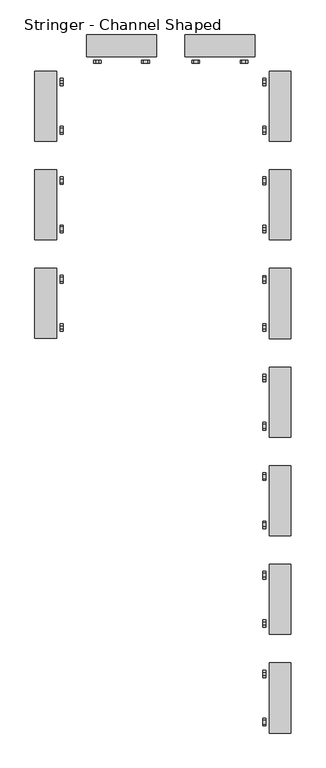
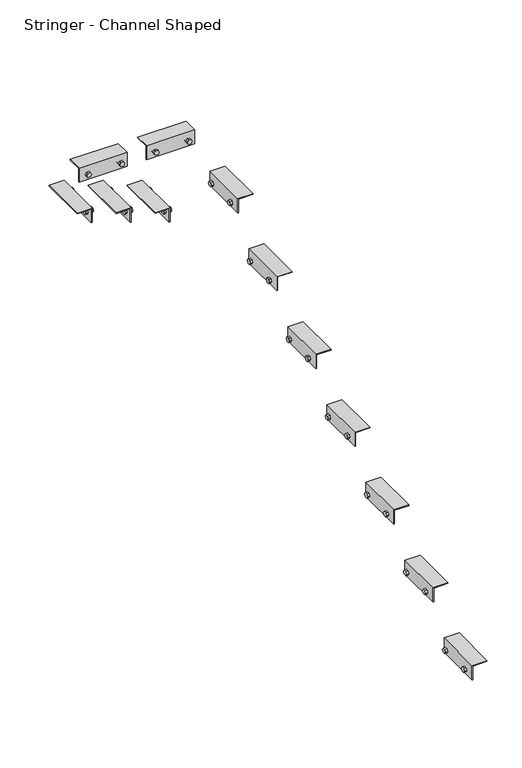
"""IFC4 building model written with IfcOpenShell, lengths in millimetres: railing geometry, Stringer - Channel Shaped."""

from ifc_helpers import new_model, si_unit, frame, origin, place, context, project, spatial, polyline, outline, extrude, source, transform, mapped, element, save


def stringer_channel_shaped_9c57bb19(model_context):
    return source(origin(), model_context, "Body", "SweptSolid", [
        extrude(outline(polyline([(1804.7607143, -35214.378433), (1868.2607143, -35214.378433), (1868.2607143, -35277.878433), (1865.0857143, -35277.878433), (1865.0857143, -35217.553433), (1804.7607143, -35217.553433), (1804.7607143, -35214.378433)])), frame((0.0, -1237.5853492, 0.0), z_axis=(0.0, 1.0, 0.0), x_axis=(0.0, 0.0, 1.0)), (0.0, 0.0, 1.0), 203.2),
        extrude(outline(polyline([(-1077.1338718, 1836.5107143), (-1071.6346105, 1846.0357143), (-1060.6360879, 1846.0357143), (-1055.1368266, 1836.5107143), (-1060.6360879, 1826.9857143), (-1071.6346105, 1826.9857143), (-1077.1338718, 1836.5107143)])), frame((-35204.853433, 0.0, 0.0), z_axis=(1.0, 0.0, 0.0), x_axis=(0.0, 1.0, 0.0)), (0.0, 0.0, 1.0), 9.525),
        extrude(outline(polyline([(-1216.8338718, 1836.5107143), (-1211.3346105, 1846.0357143), (-1200.3360879, 1846.0357143), (-1194.8368266, 1836.5107143), (-1200.3360879, 1826.9857143), (-1211.3346105, 1826.9857143), (-1216.8338718, 1836.5107143)])), frame((-35204.853433, 0.0, 0.0), z_axis=(1.0, 0.0, 0.0), x_axis=(0.0, 1.0, 0.0)), (0.0, 0.0, 1.0), 9.525),
        extrude(outline(polyline([(-1077.1338718, 1836.5107143), (-1071.6346105, 1846.0357143), (-1060.6360879, 1846.0357143), (-1055.1368266, 1836.5107143), (-1060.6360879, 1826.9857143), (-1071.6346105, 1826.9857143), (-1077.1338718, 1836.5107143)])), frame((-35227.078433, 0.0, 0.0), z_axis=(1.0, 0.0, 0.0), x_axis=(0.0, 1.0, 0.0)), (0.0, 0.0, 1.0), 9.525),
        extrude(outline(polyline([(-1216.8338718, 1836.5107143), (-1211.3346105, 1846.0357143), (-1200.3360879, 1846.0357143), (-1194.8368266, 1836.5107143), (-1200.3360879, 1826.9857143), (-1211.3346105, 1826.9857143), (-1216.8338718, 1836.5107143)])), frame((-35227.078433, 0.0, 0.0), z_axis=(1.0, 0.0, 0.0), x_axis=(0.0, 1.0, 0.0)), (0.0, 0.0, 1.0), 9.525),
        extrude(outline(polyline([(-35235.1299104, -1066.1353492), (-35240.6291717, -1075.6603492), (-35251.6276943, -1075.6603492), (-35257.1269556, -1066.1353492), (-35251.6276943, -1056.6103492), (-35240.6291717, -1056.6103492), (-35235.1299104, -1066.1353492)])), frame((0.0, 0.0, 1855.5607143), z_axis=(0.0, 0.0, 1.0), x_axis=(1.0, 0.0, 0.0)), (0.0, 0.0, 1.0), 9.525),
        extrude(outline(polyline([(-35235.1299104, -1205.8353492), (-35240.6291717, -1215.3603492), (-35251.6276943, -1215.3603492), (-35257.1269556, -1205.8353492), (-35251.6276943, -1196.3103492), (-35240.6291717, -1196.3103492), (-35235.1299104, -1205.8353492)])), frame((0.0, 0.0, 1855.5607143), z_axis=(0.0, 0.0, 1.0), x_axis=(1.0, 0.0, 0.0)), (0.0, 0.0, 1.0), 9.525),
        extrude(outline(polyline([(1630.5892857, -35214.378433), (1694.0892857, -35214.378433), (1694.0892857, -35277.878433), (1690.9142857, -35277.878433), (1690.9142857, -35217.553433), (1630.5892857, -35217.553433), (1630.5892857, -35214.378433)])), frame((0.0, -951.8353492, 0.0), z_axis=(0.0, 1.0, 0.0), x_axis=(0.0, 0.0, 1.0)), (0.0, 0.0, 1.0), 203.2),
        extrude(outline(polyline([(-791.3838718, 1662.3392857), (-785.8846105, 1671.8642857), (-774.8860879, 1671.8642857), (-769.3868266, 1662.3392857), (-774.8860879, 1652.8142857), (-785.8846105, 1652.8142857), (-791.3838718, 1662.3392857)])), frame((-35204.853433, 0.0, 0.0), z_axis=(1.0, 0.0, 0.0), x_axis=(0.0, 1.0, 0.0)), (0.0, 0.0, 1.0), 9.525),
        extrude(outline(polyline([(-931.0838718, 1662.3392857), (-925.5846105, 1671.8642857), (-914.5860879, 1671.8642857), (-909.0868266, 1662.3392857), (-914.5860879, 1652.8142857), (-925.5846105, 1652.8142857), (-931.0838718, 1662.3392857)])), frame((-35204.853433, 0.0, 0.0), z_axis=(1.0, 0.0, 0.0), x_axis=(0.0, 1.0, 0.0)), (0.0, 0.0, 1.0), 9.525),
        extrude(outline(polyline([(-791.3838718, 1662.3392857), (-785.8846105, 1671.8642857), (-774.8860879, 1671.8642857), (-769.3868266, 1662.3392857), (-774.8860879, 1652.8142857), (-785.8846105, 1652.8142857), (-791.3838718, 1662.3392857)])), frame((-35227.078433, 0.0, 0.0), z_axis=(1.0, 0.0, 0.0), x_axis=(0.0, 1.0, 0.0)), (0.0, 0.0, 1.0), 9.525),
        extrude(outline(polyline([(-931.0838718, 1662.3392857), (-925.5846105, 1671.8642857), (-914.5860879, 1671.8642857), (-909.0868266, 1662.3392857), (-914.5860879, 1652.8142857), (-925.5846105, 1652.8142857), (-931.0838718, 1662.3392857)])), frame((-35227.078433, 0.0, 0.0), z_axis=(1.0, 0.0, 0.0), x_axis=(0.0, 1.0, 0.0)), (0.0, 0.0, 1.0), 9.525),
        extrude(outline(polyline([(-35235.1299104, -780.3853492), (-35240.6291717, -789.9103492), (-35251.6276943, -789.9103492), (-35257.1269556, -780.3853492), (-35251.6276943, -770.8603492), (-35240.6291717, -770.8603492), (-35235.1299104, -780.3853492)])), frame((0.0, 0.0, 1681.3892857), z_axis=(0.0, 0.0, 1.0), x_axis=(1.0, 0.0, 0.0)), (0.0, 0.0, 1.0), 9.525),
        extrude(outline(polyline([(-35235.1299104, -920.0853492), (-35240.6291717, -929.6103492), (-35251.6276943, -929.6103492), (-35257.1269556, -920.0853492), (-35251.6276943, -910.5603492), (-35240.6291717, -910.5603492), (-35235.1299104, -920.0853492)])), frame((0.0, 0.0, 1681.3892857), z_axis=(0.0, 0.0, 1.0), x_axis=(1.0, 0.0, 0.0)), (0.0, 0.0, 1.0), 9.525),
        extrude(outline(polyline([(1456.4178571, -35214.378433), (1519.9178571, -35214.378433), (1519.9178571, -35277.878433), (1516.7428571, -35277.878433), (1516.7428571, -35217.553433), (1456.4178571, -35217.553433), (1456.4178571, -35214.378433)])), frame((0.0, -666.0853492, 0.0), z_axis=(0.0, 1.0, 0.0), x_axis=(0.0, 0.0, 1.0)), (0.0, 0.0, 1.0), 203.2),
        extrude(outline(polyline([(-505.6338718, 1488.1678571), (-500.1346105, 1497.6928571), (-489.1360879, 1497.6928571), (-483.6368266, 1488.1678571), (-489.1360879, 1478.6428571), (-500.1346105, 1478.6428571), (-505.6338718, 1488.1678571)])), frame((-35204.853433, 0.0, 0.0), z_axis=(1.0, 0.0, 0.0), x_axis=(0.0, 1.0, 0.0)), (0.0, 0.0, 1.0), 9.525),
        extrude(outline(polyline([(-645.3338718, 1488.1678571), (-639.8346105, 1497.6928571), (-628.8360879, 1497.6928571), (-623.3368266, 1488.1678571), (-628.8360879, 1478.6428571), (-639.8346105, 1478.6428571), (-645.3338718, 1488.1678571)])), frame((-35204.853433, 0.0, 0.0), z_axis=(1.0, 0.0, 0.0), x_axis=(0.0, 1.0, 0.0)), (0.0, 0.0, 1.0), 9.525),
        extrude(outline(polyline([(-505.6338718, 1488.1678571), (-500.1346105, 1497.6928571), (-489.1360879, 1497.6928571), (-483.6368266, 1488.1678571), (-489.1360879, 1478.6428571), (-500.1346105, 1478.6428571), (-505.6338718, 1488.1678571)])), frame((-35227.078433, 0.0, 0.0), z_axis=(1.0, 0.0, 0.0), x_axis=(0.0, 1.0, 0.0)), (0.0, 0.0, 1.0), 9.525),
        extrude(outline(polyline([(-645.3338718, 1488.1678571), (-639.8346105, 1497.6928571), (-628.8360879, 1497.6928571), (-623.3368266, 1488.1678571), (-628.8360879, 1478.6428571), (-639.8346105, 1478.6428571), (-645.3338718, 1488.1678571)])), frame((-35227.078433, 0.0, 0.0), z_axis=(1.0, 0.0, 0.0), x_axis=(0.0, 1.0, 0.0)), (0.0, 0.0, 1.0), 9.525),
        extrude(outline(polyline([(-35235.1299104, -494.6353492), (-35240.6291717, -504.1603492), (-35251.6276943, -504.1603492), (-35257.1269556, -494.6353492), (-35251.6276943, -485.1103492), (-35240.6291717, -485.1103492), (-35235.1299104, -494.6353492)])), frame((0.0, 0.0, 1507.2178571), z_axis=(0.0, 0.0, 1.0), x_axis=(1.0, 0.0, 0.0)), (0.0, 0.0, 1.0), 9.525),
        extrude(outline(polyline([(-35235.1299104, -634.3353492), (-35240.6291717, -643.8603492), (-35251.6276943, -643.8603492), (-35257.1269556, -634.3353492), (-35251.6276943, -624.8103492), (-35240.6291717, -624.8103492), (-35235.1299104, -634.3353492)])), frame((0.0, 0.0, 1507.2178571), z_axis=(0.0, 0.0, 1.0), x_axis=(1.0, 0.0, 0.0)), (0.0, 0.0, 1.0), 9.525),
        extrude(outline(polyline([(-421.6103492, 1456.4178571), (-421.6103492, 1519.9178571), (-358.1103492, 1519.9178571), (-358.1103492, 1516.7428571), (-418.4353492, 1516.7428571), (-418.4353492, 1456.4178571), (-421.6103492, 1456.4178571)])), frame((-35128.2272235, 0.0, 0.0), z_axis=(1.0, 0.0, 0.0), x_axis=(0.0, 1.0, 0.0)), (0.0, 0.0, 1.0), 203.2),
        extrude(outline(polyline([(1488.1678571, -34967.7757461), (1478.6428571, -34962.2764848), (1478.6428571, -34951.2779622), (1488.1678571, -34945.7787009), (1497.6928571, -34951.2779622), (1497.6928571, -34962.2764848), (1488.1678571, -34967.7757461)])), frame((0.0, -440.6603492, 0.0), z_axis=(0.0, 1.0, 0.0), x_axis=(0.0, 0.0, 1.0)), (0.0, 0.0, 1.0), 9.525),
        extrude(outline(polyline([(1488.1678571, -35107.4757461), (1478.6428571, -35101.9764848), (1478.6428571, -35090.9779622), (1488.1678571, -35085.4787009), (1497.6928571, -35090.9779622), (1497.6928571, -35101.9764848), (1488.1678571, -35107.4757461)])), frame((0.0, -440.6603492, 0.0), z_axis=(0.0, 1.0, 0.0), x_axis=(0.0, 0.0, 1.0)), (0.0, 0.0, 1.0), 9.525),
        extrude(outline(polyline([(1488.1678571, -34967.7757461), (1478.6428571, -34962.2764848), (1478.6428571, -34951.2779622), (1488.1678571, -34945.7787009), (1497.6928571, -34951.2779622), (1497.6928571, -34962.2764848), (1488.1678571, -34967.7757461)])), frame((0.0, -418.4353492, 0.0), z_axis=(0.0, 1.0, 0.0), x_axis=(0.0, 0.0, 1.0)), (0.0, 0.0, 1.0), 9.525),
        extrude(outline(polyline([(1488.1678571, -35107.4757461), (1478.6428571, -35101.9764848), (1478.6428571, -35090.9779622), (1488.1678571, -35085.4787009), (1497.6928571, -35090.9779622), (1497.6928571, -35101.9764848), (1488.1678571, -35107.4757461)])), frame((0.0, -418.4353492, 0.0), z_axis=(0.0, 1.0, 0.0), x_axis=(0.0, 0.0, 1.0)), (0.0, 0.0, 1.0), 9.525),
        extrude(outline(polyline([(-34956.7772235, -400.8588718), (-34966.3022235, -395.3596105), (-34966.3022235, -384.3610879), (-34956.7772235, -378.8618266), (-34947.2522235, -384.3610879), (-34947.2522235, -395.3596105), (-34956.7772235, -400.8588718)])), frame((0.0, 0.0, 1507.2178571), z_axis=(0.0, 0.0, 1.0), x_axis=(1.0, 0.0, 0.0)), (0.0, 0.0, 1.0), 9.525),
        extrude(outline(polyline([(-35096.4772235, -400.8588718), (-35106.0022235, -395.3596105), (-35106.0022235, -384.3610879), (-35096.4772235, -378.8618266), (-35086.9522235, -384.3610879), (-35086.9522235, -395.3596105), (-35096.4772235, -400.8588718)])), frame((0.0, 0.0, 1507.2178571), z_axis=(0.0, 0.0, 1.0), x_axis=(1.0, 0.0, 0.0)), (0.0, 0.0, 1.0), 9.525),
        extrude(outline(polyline([(-421.6103492, 1456.4178571), (-421.6103492, 1519.9178571), (-358.1103492, 1519.9178571), (-358.1103492, 1516.7428571), (-418.4353492, 1516.7428571), (-418.4353492, 1456.4178571), (-421.6103492, 1456.4178571)])), frame((-34842.4772235, 0.0, 0.0), z_axis=(1.0, 0.0, 0.0), x_axis=(0.0, 1.0, 0.0)), (0.0, 0.0, 1.0), 203.2),
        extrude(outline(polyline([(1488.1678571, -34682.0257461), (1478.6428571, -34676.5264848), (1478.6428571, -34665.5279622), (1488.1678571, -34660.0287009), (1497.6928571, -34665.5279622), (1497.6928571, -34676.5264848), (1488.1678571, -34682.0257461)])), frame((0.0, -440.6603492, 0.0), z_axis=(0.0, 1.0, 0.0), x_axis=(0.0, 0.0, 1.0)), (0.0, 0.0, 1.0), 9.525),
        extrude(outline(polyline([(1488.1678571, -34821.7257461), (1478.6428571, -34816.2264848), (1478.6428571, -34805.2279622), (1488.1678571, -34799.7287009), (1497.6928571, -34805.2279622), (1497.6928571, -34816.2264848), (1488.1678571, -34821.7257461)])), frame((0.0, -440.6603492, 0.0), z_axis=(0.0, 1.0, 0.0), x_axis=(0.0, 0.0, 1.0)), (0.0, 0.0, 1.0), 9.525),
        extrude(outline(polyline([(1488.1678571, -34682.0257461), (1478.6428571, -34676.5264848), (1478.6428571, -34665.5279622), (1488.1678571, -34660.0287009), (1497.6928571, -34665.5279622), (1497.6928571, -34676.5264848), (1488.1678571, -34682.0257461)])), frame((0.0, -418.4353492, 0.0), z_axis=(0.0, 1.0, 0.0), x_axis=(0.0, 0.0, 1.0)), (0.0, 0.0, 1.0), 9.525),
        extrude(outline(polyline([(1488.1678571, -34821.7257461), (1478.6428571, -34816.2264848), (1478.6428571, -34805.2279622), (1488.1678571, -34799.7287009), (1497.6928571, -34805.2279622), (1497.6928571, -34816.2264848), (1488.1678571, -34821.7257461)])), frame((0.0, -418.4353492, 0.0), z_axis=(0.0, 1.0, 0.0), x_axis=(0.0, 0.0, 1.0)), (0.0, 0.0, 1.0), 9.525),
        extrude(outline(polyline([(-34671.0272235, -400.8588718), (-34680.5522235, -395.3596105), (-34680.5522235, -384.3610879), (-34671.0272235, -378.8618266), (-34661.5022235, -384.3610879), (-34661.5022235, -395.3596105), (-34671.0272235, -400.8588718)])), frame((0.0, 0.0, 1507.2178571), z_axis=(0.0, 0.0, 1.0), x_axis=(1.0, 0.0, 0.0)), (0.0, 0.0, 1.0), 9.525),
        extrude(outline(polyline([(-34810.7272235, -400.8588718), (-34820.2522235, -395.3596105), (-34820.2522235, -384.3610879), (-34810.7272235, -378.8618266), (-34801.2022235, -384.3610879), (-34801.2022235, -395.3596105), (-34810.7272235, -400.8588718)])), frame((0.0, 0.0, 1507.2178571), z_axis=(0.0, 0.0, 1.0), x_axis=(1.0, 0.0, 0.0)), (0.0, 0.0, 1.0), 9.525),
        extrude(outline(polyline([(1282.2464286, -34594.8272235), (1342.5714286, -34594.8272235), (1342.5714286, -34534.5022235), (1345.7464286, -34534.5022235), (1345.7464286, -34598.0022235), (1282.2464286, -34598.0022235), (1282.2464286, -34594.8272235)])), frame((0.0, -666.0853492, 0.0), z_axis=(0.0, 1.0, 0.0), x_axis=(0.0, 0.0, 1.0)), (0.0, 0.0, 1.0), 203.2),
        extrude(outline(polyline([(-623.3368266, 1313.9964286), (-628.8360879, 1304.4714286), (-639.8346105, 1304.4714286), (-645.3338718, 1313.9964286), (-639.8346105, 1323.5214286), (-628.8360879, 1323.5214286), (-623.3368266, 1313.9964286)])), frame((-34617.0522235, 0.0, 0.0), z_axis=(1.0, 0.0, 0.0), x_axis=(0.0, 1.0, 0.0)), (0.0, 0.0, 1.0), 9.525),
        extrude(outline(polyline([(-483.6368266, 1313.9964286), (-489.1360879, 1304.4714286), (-500.1346105, 1304.4714286), (-505.6338718, 1313.9964286), (-500.1346105, 1323.5214286), (-489.1360879, 1323.5214286), (-483.6368266, 1313.9964286)])), frame((-34617.0522235, 0.0, 0.0), z_axis=(1.0, 0.0, 0.0), x_axis=(0.0, 1.0, 0.0)), (0.0, 0.0, 1.0), 9.525),
        extrude(outline(polyline([(-623.3368266, 1313.9964286), (-628.8360879, 1304.4714286), (-639.8346105, 1304.4714286), (-645.3338718, 1313.9964286), (-639.8346105, 1323.5214286), (-628.8360879, 1323.5214286), (-623.3368266, 1313.9964286)])), frame((-34594.8272235, 0.0, 0.0), z_axis=(1.0, 0.0, 0.0), x_axis=(0.0, 1.0, 0.0)), (0.0, 0.0, 1.0), 9.525),
        extrude(outline(polyline([(-483.6368266, 1313.9964286), (-489.1360879, 1304.4714286), (-500.1346105, 1304.4714286), (-505.6338718, 1313.9964286), (-500.1346105, 1323.5214286), (-489.1360879, 1323.5214286), (-483.6368266, 1313.9964286)])), frame((-34594.8272235, 0.0, 0.0), z_axis=(1.0, 0.0, 0.0), x_axis=(0.0, 1.0, 0.0)), (0.0, 0.0, 1.0), 9.525),
        extrude(outline(polyline([(-34577.2507461, -634.3353492), (-34571.7514848, -624.8103492), (-34560.7529622, -624.8103492), (-34555.2537009, -634.3353492), (-34560.7529622, -643.8603492), (-34571.7514848, -643.8603492), (-34577.2507461, -634.3353492)])), frame((0.0, 0.0, 1333.0464286), z_axis=(0.0, 0.0, 1.0), x_axis=(1.0, 0.0, 0.0)), (0.0, 0.0, 1.0), 9.525),
        extrude(outline(polyline([(-34577.2507461, -494.6353492), (-34571.7514848, -485.1103492), (-34560.7529622, -485.1103492), (-34555.2537009, -494.6353492), (-34560.7529622, -504.1603492), (-34571.7514848, -504.1603492), (-34577.2507461, -494.6353492)])), frame((0.0, 0.0, 1333.0464286), z_axis=(0.0, 0.0, 1.0), x_axis=(1.0, 0.0, 0.0)), (0.0, 0.0, 1.0), 9.525),
        extrude(outline(polyline([(1108.075, -34594.8272235), (1168.4, -34594.8272235), (1168.4, -34534.5022235), (1171.575, -34534.5022235), (1171.575, -34598.0022235), (1108.075, -34598.0022235), (1108.075, -34594.8272235)])), frame((0.0, -951.8353492, 0.0), z_axis=(0.0, 1.0, 0.0), x_axis=(0.0, 0.0, 1.0)), (0.0, 0.0, 1.0), 203.2),
        extrude(outline(polyline([(-909.0868266, 1139.825), (-914.5860879, 1130.3), (-925.5846105, 1130.3), (-931.0838718, 1139.825), (-925.5846105, 1149.35), (-914.5860879, 1149.35), (-909.0868266, 1139.825)])), frame((-34617.0522235, 0.0, 0.0), z_axis=(1.0, 0.0, 0.0), x_axis=(0.0, 1.0, 0.0)), (0.0, 0.0, 1.0), 9.525),
        extrude(outline(polyline([(-769.3868266, 1139.825), (-774.8860879, 1130.3), (-785.8846105, 1130.3), (-791.3838718, 1139.825), (-785.8846105, 1149.35), (-774.8860879, 1149.35), (-769.3868266, 1139.825)])), frame((-34617.0522235, 0.0, 0.0), z_axis=(1.0, 0.0, 0.0), x_axis=(0.0, 1.0, 0.0)), (0.0, 0.0, 1.0), 9.525),
        extrude(outline(polyline([(-909.0868266, 1139.825), (-914.5860879, 1130.3), (-925.5846105, 1130.3), (-931.0838718, 1139.825), (-925.5846105, 1149.35), (-914.5860879, 1149.35), (-909.0868266, 1139.825)])), frame((-34594.8272235, 0.0, 0.0), z_axis=(1.0, 0.0, 0.0), x_axis=(0.0, 1.0, 0.0)), (0.0, 0.0, 1.0), 9.525),
        extrude(outline(polyline([(-769.3868266, 1139.825), (-774.8860879, 1130.3), (-785.8846105, 1130.3), (-791.3838718, 1139.825), (-785.8846105, 1149.35), (-774.8860879, 1149.35), (-769.3868266, 1139.825)])), frame((-34594.8272235, 0.0, 0.0), z_axis=(1.0, 0.0, 0.0), x_axis=(0.0, 1.0, 0.0)), (0.0, 0.0, 1.0), 9.525),
        extrude(outline(polyline([(-34577.2507461, -920.0853492), (-34571.7514848, -910.5603492), (-34560.7529622, -910.5603492), (-34555.2537009, -920.0853492), (-34560.7529622, -929.6103492), (-34571.7514848, -929.6103492), (-34577.2507461, -920.0853492)])), frame((0.0, 0.0, 1158.875), z_axis=(0.0, 0.0, 1.0), x_axis=(1.0, 0.0, 0.0)), (0.0, 0.0, 1.0), 9.525),
        extrude(outline(polyline([(-34577.2507461, -780.3853492), (-34571.7514848, -770.8603492), (-34560.7529622, -770.8603492), (-34555.2537009, -780.3853492), (-34560.7529622, -789.9103492), (-34571.7514848, -789.9103492), (-34577.2507461, -780.3853492)])), frame((0.0, 0.0, 1158.875), z_axis=(0.0, 0.0, 1.0), x_axis=(1.0, 0.0, 0.0)), (0.0, 0.0, 1.0), 9.525),
        extrude(outline(polyline([(933.9035714, -34594.8272235), (994.2285714, -34594.8272235), (994.2285714, -34534.5022235), (997.4035714, -34534.5022235), (997.4035714, -34598.0022235), (933.9035714, -34598.0022235), (933.9035714, -34594.8272235)])), frame((0.0, -1237.5853492, 0.0), z_axis=(0.0, 1.0, 0.0), x_axis=(0.0, 0.0, 1.0)), (0.0, 0.0, 1.0), 203.2),
        extrude(outline(polyline([(-1194.8368266, 965.6535714), (-1200.3360879, 956.1285714), (-1211.3346105, 956.1285714), (-1216.8338718, 965.6535714), (-1211.3346105, 975.1785714), (-1200.3360879, 975.1785714), (-1194.8368266, 965.6535714)])), frame((-34617.0522235, 0.0, 0.0), z_axis=(1.0, 0.0, 0.0), x_axis=(0.0, 1.0, 0.0)), (0.0, 0.0, 1.0), 9.525),
        extrude(outline(polyline([(-1055.1368266, 965.6535714), (-1060.6360879, 956.1285714), (-1071.6346105, 956.1285714), (-1077.1338718, 965.6535714), (-1071.6346105, 975.1785714), (-1060.6360879, 975.1785714), (-1055.1368266, 965.6535714)])), frame((-34617.0522235, 0.0, 0.0), z_axis=(1.0, 0.0, 0.0), x_axis=(0.0, 1.0, 0.0)), (0.0, 0.0, 1.0), 9.525),
        extrude(outline(polyline([(-1194.8368266, 965.6535714), (-1200.3360879, 956.1285714), (-1211.3346105, 956.1285714), (-1216.8338718, 965.6535714), (-1211.3346105, 975.1785714), (-1200.3360879, 975.1785714), (-1194.8368266, 965.6535714)])), frame((-34594.8272235, 0.0, 0.0), z_axis=(1.0, 0.0, 0.0), x_axis=(0.0, 1.0, 0.0)), (0.0, 0.0, 1.0), 9.525),
        extrude(outline(polyline([(-1055.1368266, 965.6535714), (-1060.6360879, 956.1285714), (-1071.6346105, 956.1285714), (-1077.1338718, 965.6535714), (-1071.6346105, 975.1785714), (-1060.6360879, 975.1785714), (-1055.1368266, 965.6535714)])), frame((-34594.8272235, 0.0, 0.0), z_axis=(1.0, 0.0, 0.0), x_axis=(0.0, 1.0, 0.0)), (0.0, 0.0, 1.0), 9.525),
        extrude(outline(polyline([(-34577.2507461, -1205.8353492), (-34571.7514848, -1196.3103492), (-34560.7529622, -1196.3103492), (-34555.2537009, -1205.8353492), (-34560.7529622, -1215.3603492), (-34571.7514848, -1215.3603492), (-34577.2507461, -1205.8353492)])), frame((0.0, 0.0, 984.7035714), z_axis=(0.0, 0.0, 1.0), x_axis=(1.0, 0.0, 0.0)), (0.0, 0.0, 1.0), 9.525),
        extrude(outline(polyline([(-34577.2507461, -1066.1353492), (-34571.7514848, -1056.6103492), (-34560.7529622, -1056.6103492), (-34555.2537009, -1066.1353492), (-34560.7529622, -1075.6603492), (-34571.7514848, -1075.6603492), (-34577.2507461, -1066.1353492)])), frame((0.0, 0.0, 984.7035714), z_axis=(0.0, 0.0, 1.0), x_axis=(1.0, 0.0, 0.0)), (0.0, 0.0, 1.0), 9.525),
        extrude(outline(polyline([(759.7321429, -34594.8272235), (820.0571429, -34594.8272235), (820.0571429, -34534.5022235), (823.2321429, -34534.5022235), (823.2321429, -34598.0022235), (759.7321429, -34598.0022235), (759.7321429, -34594.8272235)])), frame((0.0, -1523.3353492, 0.0), z_axis=(0.0, 1.0, 0.0), x_axis=(0.0, 0.0, 1.0)), (0.0, 0.0, 1.0), 203.2),
        extrude(outline(polyline([(-1480.5868266, 791.4821429), (-1486.0860879, 781.9571429), (-1497.0846105, 781.9571429), (-1502.5838718, 791.4821429), (-1497.0846105, 801.0071429), (-1486.0860879, 801.0071429), (-1480.5868266, 791.4821429)])), frame((-34617.0522235, 0.0, 0.0), z_axis=(1.0, 0.0, 0.0), x_axis=(0.0, 1.0, 0.0)), (0.0, 0.0, 1.0), 9.525),
        extrude(outline(polyline([(-1340.8868266, 791.4821429), (-1346.3860879, 781.9571429), (-1357.3846105, 781.9571429), (-1362.8838718, 791.4821429), (-1357.3846105, 801.0071429), (-1346.3860879, 801.0071429), (-1340.8868266, 791.4821429)])), frame((-34617.0522235, 0.0, 0.0), z_axis=(1.0, 0.0, 0.0), x_axis=(0.0, 1.0, 0.0)), (0.0, 0.0, 1.0), 9.525),
        extrude(outline(polyline([(-1480.5868266, 791.4821429), (-1486.0860879, 781.9571429), (-1497.0846105, 781.9571429), (-1502.5838718, 791.4821429), (-1497.0846105, 801.0071429), (-1486.0860879, 801.0071429), (-1480.5868266, 791.4821429)])), frame((-34594.8272235, 0.0, 0.0), z_axis=(1.0, 0.0, 0.0), x_axis=(0.0, 1.0, 0.0)), (0.0, 0.0, 1.0), 9.525),
        extrude(outline(polyline([(-1340.8868266, 791.4821429), (-1346.3860879, 781.9571429), (-1357.3846105, 781.9571429), (-1362.8838718, 791.4821429), (-1357.3846105, 801.0071429), (-1346.3860879, 801.0071429), (-1340.8868266, 791.4821429)])), frame((-34594.8272235, 0.0, 0.0), z_axis=(1.0, 0.0, 0.0), x_axis=(0.0, 1.0, 0.0)), (0.0, 0.0, 1.0), 9.525),
        extrude(outline(polyline([(-34577.2507461, -1491.5853492), (-34571.7514848, -1482.0603492), (-34560.7529622, -1482.0603492), (-34555.2537009, -1491.5853492), (-34560.7529622, -1501.1103492), (-34571.7514848, -1501.1103492), (-34577.2507461, -1491.5853492)])), frame((0.0, 0.0, 810.5321429), z_axis=(0.0, 0.0, 1.0), x_axis=(1.0, 0.0, 0.0)), (0.0, 0.0, 1.0), 9.525),
        extrude(outline(polyline([(-34577.2507461, -1351.8853492), (-34571.7514848, -1342.3603492), (-34560.7529622, -1342.3603492), (-34555.2537009, -1351.8853492), (-34560.7529622, -1361.4103492), (-34571.7514848, -1361.4103492), (-34577.2507461, -1351.8853492)])), frame((0.0, 0.0, 810.5321429), z_axis=(0.0, 0.0, 1.0), x_axis=(1.0, 0.0, 0.0)), (0.0, 0.0, 1.0), 9.525),
        extrude(outline(polyline([(585.5607143, -34594.8272235), (645.8857143, -34594.8272235), (645.8857143, -34534.5022235), (649.0607143, -34534.5022235), (649.0607143, -34598.0022235), (585.5607143, -34598.0022235), (585.5607143, -34594.8272235)])), frame((0.0, -1809.0853492, 0.0), z_axis=(0.0, 1.0, 0.0), x_axis=(0.0, 0.0, 1.0)), (0.0, 0.0, 1.0), 203.2),
        extrude(outline(polyline([(-1766.3368266, 617.3107143), (-1771.8360879, 607.7857143), (-1782.8346105, 607.7857143), (-1788.3338718, 617.3107143), (-1782.8346105, 626.8357143), (-1771.8360879, 626.8357143), (-1766.3368266, 617.3107143)])), frame((-34617.0522235, 0.0, 0.0), z_axis=(1.0, 0.0, 0.0), x_axis=(0.0, 1.0, 0.0)), (0.0, 0.0, 1.0), 9.525),
        extrude(outline(polyline([(-1626.6368266, 617.3107143), (-1632.1360879, 607.7857143), (-1643.1346105, 607.7857143), (-1648.6338718, 617.3107143), (-1643.1346105, 626.8357143), (-1632.1360879, 626.8357143), (-1626.6368266, 617.3107143)])), frame((-34617.0522235, 0.0, 0.0), z_axis=(1.0, 0.0, 0.0), x_axis=(0.0, 1.0, 0.0)), (0.0, 0.0, 1.0), 9.525),
        extrude(outline(polyline([(-1766.3368266, 617.3107143), (-1771.8360879, 607.7857143), (-1782.8346105, 607.7857143), (-1788.3338718, 617.3107143), (-1782.8346105, 626.8357143), (-1771.8360879, 626.8357143), (-1766.3368266, 617.3107143)])), frame((-34594.8272235, 0.0, 0.0), z_axis=(1.0, 0.0, 0.0), x_axis=(0.0, 1.0, 0.0)), (0.0, 0.0, 1.0), 9.525),
        extrude(outline(polyline([(-1626.6368266, 617.3107143), (-1632.1360879, 607.7857143), (-1643.1346105, 607.7857143), (-1648.6338718, 617.3107143), (-1643.1346105, 626.8357143), (-1632.1360879, 626.8357143), (-1626.6368266, 617.3107143)])), frame((-34594.8272235, 0.0, 0.0), z_axis=(1.0, 0.0, 0.0), x_axis=(0.0, 1.0, 0.0)), (0.0, 0.0, 1.0), 9.525),
        extrude(outline(polyline([(-34577.2507461, -1777.3353492), (-34571.7514848, -1767.8103492), (-34560.7529622, -1767.8103492), (-34555.2537009, -1777.3353492), (-34560.7529622, -1786.8603492), (-34571.7514848, -1786.8603492), (-34577.2507461, -1777.3353492)])), frame((0.0, 0.0, 636.3607143), z_axis=(0.0, 0.0, 1.0), x_axis=(1.0, 0.0, 0.0)), (0.0, 0.0, 1.0), 9.525),
        extrude(outline(polyline([(-34577.2507461, -1637.6353492), (-34571.7514848, -1628.1103492), (-34560.7529622, -1628.1103492), (-34555.2537009, -1637.6353492), (-34560.7529622, -1647.1603492), (-34571.7514848, -1647.1603492), (-34577.2507461, -1637.6353492)])), frame((0.0, 0.0, 636.3607143), z_axis=(0.0, 0.0, 1.0), x_axis=(1.0, 0.0, 0.0)), (0.0, 0.0, 1.0), 9.525),
        extrude(outline(polyline([(411.3892857, -34594.8272235), (471.7142857, -34594.8272235), (471.7142857, -34534.5022235), (474.8892857, -34534.5022235), (474.8892857, -34598.0022235), (411.3892857, -34598.0022235), (411.3892857, -34594.8272235)])), frame((0.0, -2094.8353492, 0.0), z_axis=(0.0, 1.0, 0.0), x_axis=(0.0, 0.0, 1.0)), (0.0, 0.0, 1.0), 203.2),
        extrude(outline(polyline([(-2052.0868266, 443.1392857), (-2057.5860879, 433.6142857), (-2068.5846105, 433.6142857), (-2074.0838718, 443.1392857), (-2068.5846105, 452.6642857), (-2057.5860879, 452.6642857), (-2052.0868266, 443.1392857)])), frame((-34617.0522235, 0.0, 0.0), z_axis=(1.0, 0.0, 0.0), x_axis=(0.0, 1.0, 0.0)), (0.0, 0.0, 1.0), 9.525),
        extrude(outline(polyline([(-1912.3868266, 443.1392857), (-1917.8860879, 433.6142857), (-1928.8846105, 433.6142857), (-1934.3838718, 443.1392857), (-1928.8846105, 452.6642857), (-1917.8860879, 452.6642857), (-1912.3868266, 443.1392857)])), frame((-34617.0522235, 0.0, 0.0), z_axis=(1.0, 0.0, 0.0), x_axis=(0.0, 1.0, 0.0)), (0.0, 0.0, 1.0), 9.525),
        extrude(outline(polyline([(-2052.0868266, 443.1392857), (-2057.5860879, 433.6142857), (-2068.5846105, 433.6142857), (-2074.0838718, 443.1392857), (-2068.5846105, 452.6642857), (-2057.5860879, 452.6642857), (-2052.0868266, 443.1392857)])), frame((-34594.8272235, 0.0, 0.0), z_axis=(1.0, 0.0, 0.0), x_axis=(0.0, 1.0, 0.0)), (0.0, 0.0, 1.0), 9.525),
        extrude(outline(polyline([(-1912.3868266, 443.1392857), (-1917.8860879, 433.6142857), (-1928.8846105, 433.6142857), (-1934.3838718, 443.1392857), (-1928.8846105, 452.6642857), (-1917.8860879, 452.6642857), (-1912.3868266, 443.1392857)])), frame((-34594.8272235, 0.0, 0.0), z_axis=(1.0, 0.0, 0.0), x_axis=(0.0, 1.0, 0.0)), (0.0, 0.0, 1.0), 9.525),
        extrude(outline(polyline([(-34577.2507461, -2063.0853492), (-34571.7514848, -2053.5603492), (-34560.7529622, -2053.5603492), (-34555.2537009, -2063.0853492), (-34560.7529622, -2072.6103492), (-34571.7514848, -2072.6103492), (-34577.2507461, -2063.0853492)])), frame((0.0, 0.0, 462.1892857), z_axis=(0.0, 0.0, 1.0), x_axis=(1.0, 0.0, 0.0)), (0.0, 0.0, 1.0), 9.525),
        extrude(outline(polyline([(-34577.2507461, -1923.3853492), (-34571.7514848, -1913.8603492), (-34560.7529622, -1913.8603492), (-34555.2537009, -1923.3853492), (-34560.7529622, -1932.9103492), (-34571.7514848, -1932.9103492), (-34577.2507461, -1923.3853492)])), frame((0.0, 0.0, 462.1892857), z_axis=(0.0, 0.0, 1.0), x_axis=(1.0, 0.0, 0.0)), (0.0, 0.0, 1.0), 9.525),
        extrude(outline(polyline([(237.2178571, -34594.8272235), (297.5428571, -34594.8272235), (297.5428571, -34534.5022235), (300.7178571, -34534.5022235), (300.7178571, -34598.0022235), (237.2178571, -34598.0022235), (237.2178571, -34594.8272235)])), frame((0.0, -2380.5853492, 0.0), z_axis=(0.0, 1.0, 0.0), x_axis=(0.0, 0.0, 1.0)), (0.0, 0.0, 1.0), 203.2),
        extrude(outline(polyline([(-2337.8368266, 268.9678571), (-2343.3360879, 259.4428571), (-2354.3346105, 259.4428571), (-2359.8338718, 268.9678571), (-2354.3346105, 278.4928571), (-2343.3360879, 278.4928571), (-2337.8368266, 268.9678571)])), frame((-34617.0522235, 0.0, 0.0), z_axis=(1.0, 0.0, 0.0), x_axis=(0.0, 1.0, 0.0)), (0.0, 0.0, 1.0), 9.525),
        extrude(outline(polyline([(-2198.1368266, 268.9678571), (-2203.6360879, 259.4428571), (-2214.6346105, 259.4428571), (-2220.1338718, 268.9678571), (-2214.6346105, 278.4928571), (-2203.6360879, 278.4928571), (-2198.1368266, 268.9678571)])), frame((-34617.0522235, 0.0, 0.0), z_axis=(1.0, 0.0, 0.0), x_axis=(0.0, 1.0, 0.0)), (0.0, 0.0, 1.0), 9.525),
        extrude(outline(polyline([(-2337.8368266, 268.9678571), (-2343.3360879, 259.4428571), (-2354.3346105, 259.4428571), (-2359.8338718, 268.9678571), (-2354.3346105, 278.4928571), (-2343.3360879, 278.4928571), (-2337.8368266, 268.9678571)])), frame((-34594.8272235, 0.0, 0.0), z_axis=(1.0, 0.0, 0.0), x_axis=(0.0, 1.0, 0.0)), (0.0, 0.0, 1.0), 9.525),
        extrude(outline(polyline([(-2198.1368266, 268.9678571), (-2203.6360879, 259.4428571), (-2214.6346105, 259.4428571), (-2220.1338718, 268.9678571), (-2214.6346105, 278.4928571), (-2203.6360879, 278.4928571), (-2198.1368266, 268.9678571)])), frame((-34594.8272235, 0.0, 0.0), z_axis=(1.0, 0.0, 0.0), x_axis=(0.0, 1.0, 0.0)), (0.0, 0.0, 1.0), 9.525),
    ])


if __name__ == "__main__":
    model = new_model("IFC4")
    model_context = context("Model", 3, world=origin())
    ifc_project = project(units=[si_unit("LENGTHUNIT", "METRE", prefix="MILLI")], contexts=[model_context])
    site = spatial("IfcSite", under=ifc_project)
    building = spatial("IfcBuilding", under=site)
    placement = place(None, origin())
    stringer_channel_shaped_shape = stringer_channel_shaped_9c57bb19(model_context)
    element("IfcRailing", 1, ObjectType="Stringer - Channel Shaped", at=placement, inside=building, context=model_context, shape_type="MappedRepresentation", body=[
        mapped(stringer_channel_shaped_shape, transform((0.0, 0.0, 0.0), x_axis=(1.0, 0.0, 0.0), y_axis=(0.0, 1.0, 0.0), z_axis=(0.0, 0.0, 1.0))),
    ])
    save(model, "model.ifc")
